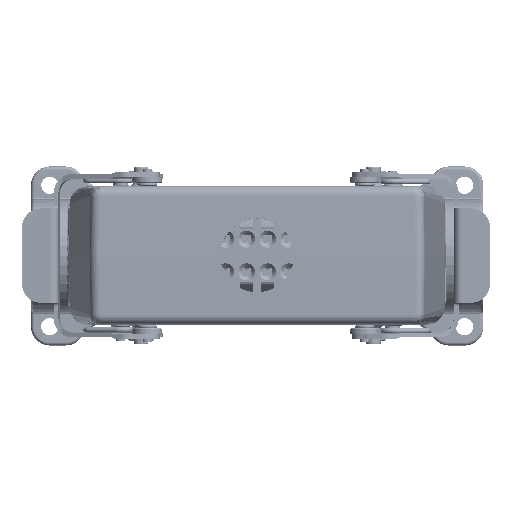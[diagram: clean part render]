
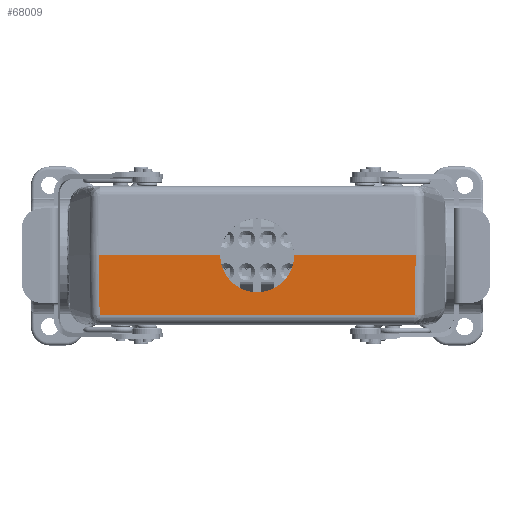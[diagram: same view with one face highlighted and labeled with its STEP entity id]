
A CAD part, top view. The second image highlights one B-rep face of the part: STEP entity #68009.
In plain terms, the highlighted planar face has unit normal (0, -0.018, 1).
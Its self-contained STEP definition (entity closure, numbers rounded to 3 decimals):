
#303 = CARTESIAN_POINT ( 'NONE',  ( 11.75, -5.878, 59.897 ) ) ;
#1362 = DIRECTION ( 'NONE',  ( -1., 0., 0. ) ) ;
#3066 = CARTESIAN_POINT ( 'NONE',  ( -50.088, -19.04, 59.668 ) ) ;
#4238 = VERTEX_POINT ( 'NONE', #100348 ) ;
#6978 = LINE ( 'NONE', #62231, #142084 ) ;
#10676 = CARTESIAN_POINT ( 'NONE',  ( 50.015, -19.052, 59.667 ) ) ;
#11601 = DIRECTION ( 'NONE',  ( -1., 0., 0. ) ) ;
#20311 = CARTESIAN_POINT ( 'NONE',  ( -7.833, -11.755, 59.795 ) ) ;
#26111 = ORIENTED_EDGE ( 'NONE', *, *, #58559, .F. ) ;
#27020 = CARTESIAN_POINT ( 'NONE',  ( 50.015, -19.052, 59.667 ) ) ;
#27315 = CARTESIAN_POINT ( 'NONE',  ( 0., -11.755, 59.795 ) ) ;
#27498 = VERTEX_POINT ( 'NONE', #58664 ) ;
#29417 = LINE ( 'NONE', #154602, #76444 ) ;
#32446 = ORIENTED_EDGE ( 'NONE', *, *, #122173, .F. ) ;
#33052 = CARTESIAN_POINT ( 'NONE',  ( 50.152, -18.955, 59.669 ) ) ;
#34354 = DIRECTION ( 'NONE',  ( -0.015, -1., -0.017 ) ) ;
#38412 = B_SPLINE_CURVE_WITH_KNOTS ( 'NONE', 3,
 ( #27020, #170072, #95867, #85657, #33052, #155549 ),
 .UNSPECIFIED., .F., .F.,
 ( 4, 2, 4 ),
 ( 0., 0.5, 1. ),
 .UNSPECIFIED. ) ;
#45283 = EDGE_CURVE ( 'NONE', #70207, #4238, #29417, .T. ) ;
#46154 = LINE ( 'NONE', #101414, #164253 ) ;
#48969 = FACE_OUTER_BOUND ( 'NONE', #68064, .T. ) ;
#50362 = EDGE_CURVE ( 'NONE', #4238, #93866, #109571, .T. ) ;
#51682 = CARTESIAN_POINT ( 'NONE',  ( -52.947, 0., 60. ) ) ;
#52966 = CARTESIAN_POINT ( 'NONE',  ( 50.153, -18.917, 59.67 ) ) ;
#55656 = CARTESIAN_POINT ( 'NONE',  ( -50.153, -18.923, 59.67 ) ) ;
#56168 = CARTESIAN_POINT ( 'NONE',  ( -50.338, -6.308, 59.89 ) ) ;
#57078 = CARTESIAN_POINT ( 'NONE',  ( 50.43, 0., 60. ) ) ;
#58559 = EDGE_CURVE ( 'NONE', #70207, #128479, #131449, .T. ) ;
#58664 = CARTESIAN_POINT ( 'NONE',  ( -50.021, -19.052, 59.667 ) ) ;
#60540 = EDGE_CURVE ( 'NONE', #64402, #128479, #38412, .T. ) ;
#62231 = CARTESIAN_POINT ( 'NONE',  ( -52.947, -19.052, 59.667 ) ) ;
#62424 = CARTESIAN_POINT ( 'NONE',  ( 50.43, 0., 60. ) ) ;
#64156 = ORIENTED_EDGE ( 'NONE', *, *, #122271, .T. ) ;
#64402 = VERTEX_POINT ( 'NONE', #10676 ) ;
#67400 = ORIENTED_EDGE ( 'NONE', *, *, #45283, .T. ) ;
#68009 = ADVANCED_FACE ( 'NONE', ( #48969 ), #133388, .T. ) ;
#68064 = EDGE_LOOP ( 'NONE', ( #67400, #168287, #168285, #64156, #32446, #141266, #157969, #137490, #26111 ) ) ;
#69596 = EDGE_CURVE ( 'NONE', #93866, #172172, #100576, .T. ) ;
#69731 = CARTESIAN_POINT ( 'NONE',  ( -50.153, -18.923, 59.67 ) ) ;
#69795 = AXIS2_PLACEMENT_3D ( 'NONE', #51682, #132475, #148783 ) ;
#70207 = VERTEX_POINT ( 'NONE', #57078 ) ;
#76444 = VECTOR ( 'NONE', #1362, 1000. ) ;
#85657 = CARTESIAN_POINT ( 'NONE',  ( 50.138, -18.987, 59.669 ) ) ;
#89170 = CARTESIAN_POINT ( 'NONE',  ( -11.75, 0., 60. ) ) ;
#90984 = CARTESIAN_POINT ( 'NONE',  ( 0., -11.755, 59.795 ) ) ;
#93866 = VERTEX_POINT ( 'NONE', #27315 ) ;
#95867 = CARTESIAN_POINT ( 'NONE',  ( 50.085, -19.039, 59.668 ) ) ;
#99003 = CARTESIAN_POINT ( 'NONE',  ( 0., -11.755, 59.795 ) ) ;
#100348 = CARTESIAN_POINT ( 'NONE',  ( 11.75, 0., 60. ) ) ;
#100576 =( BOUNDED_CURVE ( )  B_SPLINE_CURVE ( 3, ( #90984, #20311, #159094, #89170 ),
 .UNSPECIFIED., .F., .F. ) 
 B_SPLINE_CURVE_WITH_KNOTS ( ( 4, 4 ),
 ( 3.142, 4.712 ),
 .UNSPECIFIED. ) 
 CURVE ( )  GEOMETRIC_REPRESENTATION_ITEM ( )  RATIONAL_B_SPLINE_CURVE ( ( 0.5, 0.5, 0.667, 1. ) ) 
 REPRESENTATION_ITEM ( '' )  );
#101414 = CARTESIAN_POINT ( 'NONE',  ( -52.947, 0., 60. ) ) ;
#109571 =( BOUNDED_CURVE ( )  B_SPLINE_CURVE ( 3, ( #124496, #303, #137296, #99003 ),
 .UNSPECIFIED., .F., .F. ) 
 B_SPLINE_CURVE_WITH_KNOTS ( ( 4, 4 ),
 ( 1.571, 3.142 ),
 .UNSPECIFIED. ) 
 CURVE ( )  GEOMETRIC_REPRESENTATION_ITEM ( )  RATIONAL_B_SPLINE_CURVE ( ( 1., 0.667, 0.5, 0.5 ) ) 
 REPRESENTATION_ITEM ( '' )  );
#110924 = CARTESIAN_POINT ( 'NONE',  ( -50.021, -19.052, 59.667 ) ) ;
#111422 = CARTESIAN_POINT ( 'NONE',  ( -50.43, 0., 60. ) ) ;
#115794 = CARTESIAN_POINT ( 'NONE',  ( -50.43, 0., 60. ) ) ;
#117548 = DIRECTION ( 'NONE',  ( 1., 0., 0. ) ) ;
#122173 = EDGE_CURVE ( 'NONE', #142422, #170708, #122612, .T. ) ;
#122271 = EDGE_CURVE ( 'NONE', #172172, #170708, #46154, .T. ) ;
#122612 = B_SPLINE_CURVE_WITH_KNOTS ( 'NONE', 3,
 ( #69731, #138780, #56168, #111422 ),
 .UNSPECIFIED., .F., .F.,
 ( 4, 4 ),
 ( 0., 1. ),
 .UNSPECIFIED. ) ;
#124496 = CARTESIAN_POINT ( 'NONE',  ( 11.75, 0., 60. ) ) ;
#128479 = VERTEX_POINT ( 'NONE', #52966 ) ;
#129730 = CARTESIAN_POINT ( 'NONE',  ( -50.153, -18.923, 59.67 ) ) ;
#131449 = LINE ( 'NONE', #62424, #163907 ) ;
#132475 = DIRECTION ( 'NONE',  ( 0., -0.017, 1. ) ) ;
#133388 = PLANE ( 'NONE',  #69795 ) ;
#137296 = CARTESIAN_POINT ( 'NONE',  ( 7.833, -11.755, 59.795 ) ) ;
#137490 = ORIENTED_EDGE ( 'NONE', *, *, #60540, .T. ) ;
#138780 = CARTESIAN_POINT ( 'NONE',  ( -50.245, -12.616, 59.78 ) ) ;
#141266 = ORIENTED_EDGE ( 'NONE', *, *, #156812, .T. ) ;
#142084 = VECTOR ( 'NONE', #117548, 1000. ) ;
#142422 = VERTEX_POINT ( 'NONE', #129730 ) ;
#146329 = EDGE_CURVE ( 'NONE', #27498, #64402, #6978, .T. ) ;
#148783 = DIRECTION ( 'NONE',  ( -1., 0., 0. ) ) ;
#152775 = CARTESIAN_POINT ( 'NONE',  ( -50.152, -18.959, 59.669 ) ) ;
#154535 = CARTESIAN_POINT ( 'NONE',  ( -50.138, -18.99, 59.669 ) ) ;
#154602 = CARTESIAN_POINT ( 'NONE',  ( -52.947, 0., 60. ) ) ;
#155549 = CARTESIAN_POINT ( 'NONE',  ( 50.153, -18.917, 59.67 ) ) ;
#156316 = CARTESIAN_POINT ( 'NONE',  ( -11.75, 0., 60. ) ) ;
#156812 = EDGE_CURVE ( 'NONE', #142422, #27498, #160743, .T. ) ;
#157969 = ORIENTED_EDGE ( 'NONE', *, *, #146329, .T. ) ;
#159094 = CARTESIAN_POINT ( 'NONE',  ( -11.75, -5.878, 59.897 ) ) ;
#160743 = B_SPLINE_CURVE_WITH_KNOTS ( 'NONE', 3,
 ( #55656, #152775, #154535, #3066, #168180, #110924 ),
 .UNSPECIFIED., .F., .F.,
 ( 4, 2, 4 ),
 ( 0., 0.5, 1. ),
 .UNSPECIFIED. ) ;
#163907 = VECTOR ( 'NONE', #34354, 1000. ) ;
#164253 = VECTOR ( 'NONE', #11601, 1000. ) ;
#168180 = CARTESIAN_POINT ( 'NONE',  ( -50.058, -19.052, 59.667 ) ) ;
#168285 = ORIENTED_EDGE ( 'NONE', *, *, #69596, .T. ) ;
#168287 = ORIENTED_EDGE ( 'NONE', *, *, #50362, .T. ) ;
#170072 = CARTESIAN_POINT ( 'NONE',  ( 50.052, -19.052, 59.667 ) ) ;
#170708 = VERTEX_POINT ( 'NONE', #115794 ) ;
#172172 = VERTEX_POINT ( 'NONE', #156316 ) ;
